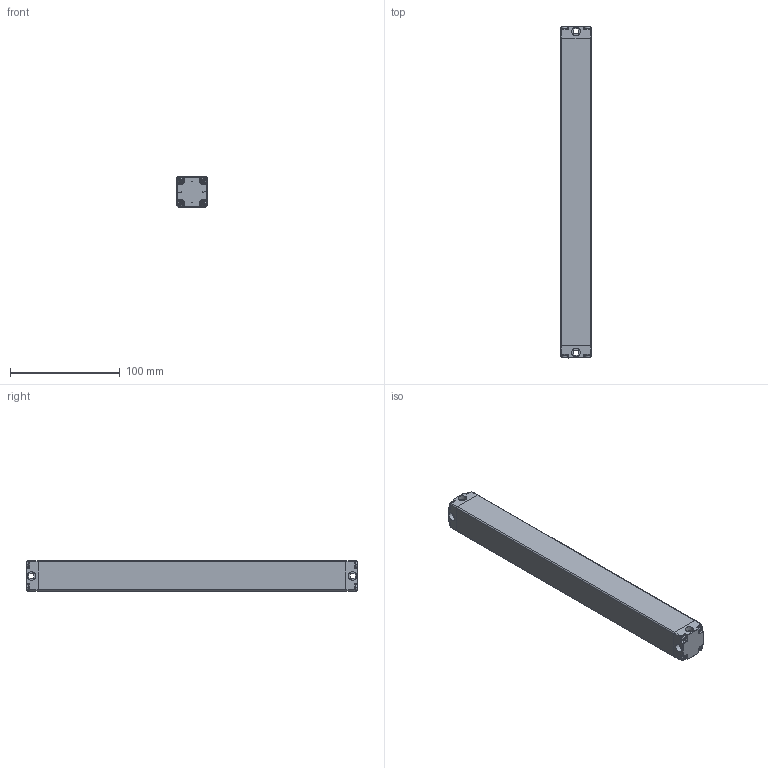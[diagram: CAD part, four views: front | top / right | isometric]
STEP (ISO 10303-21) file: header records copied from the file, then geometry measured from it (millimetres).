
FILE_DESCRIPTION((''),'2;1');
FILE_NAME('ELD00_ASM','2021-07-20T09:23:45',('18720616900'),(''),'CREO PARAMETRIC BY PTC INC, 2019010','CREO PARAMETRIC BY PTC INC, 2019010','');
FILE_SCHEMA(('CONFIG_CONTROL_DESIGN'));
Length unit declared in the file: millimetre
Products named in the file (6): ELD--00; ELD--000; ST-3-12; ELD00_ASM
Assembly tree (12 placements, depth 2):
  ELD00_ASM
    ELD--00
    ELD--000
    ELD--000
    ELD--000
    ST-3-12  x8
Bounding box: 28 x 302 x 28 mm (x, y, z)
Volume: 232522.4 mm3; surface area: 54571.3 mm2
Topology: 12 solids, 12 shells, 792 faces, 2082 edges, 1296 vertices
Faces by surface type: plane 236, cone 172, bspline 168, cylinder 156, torus 44, sphere 16
Entity records: 14414 total; most frequent: CARTESIAN_POINT 6863, ORIENTED_EDGE 1584, DIRECTION 1469, EDGE_CURVE 792, AXIS2_PLACEMENT_3D 520, VERTEX_POINT 491, VECTOR 429, LINE 429
